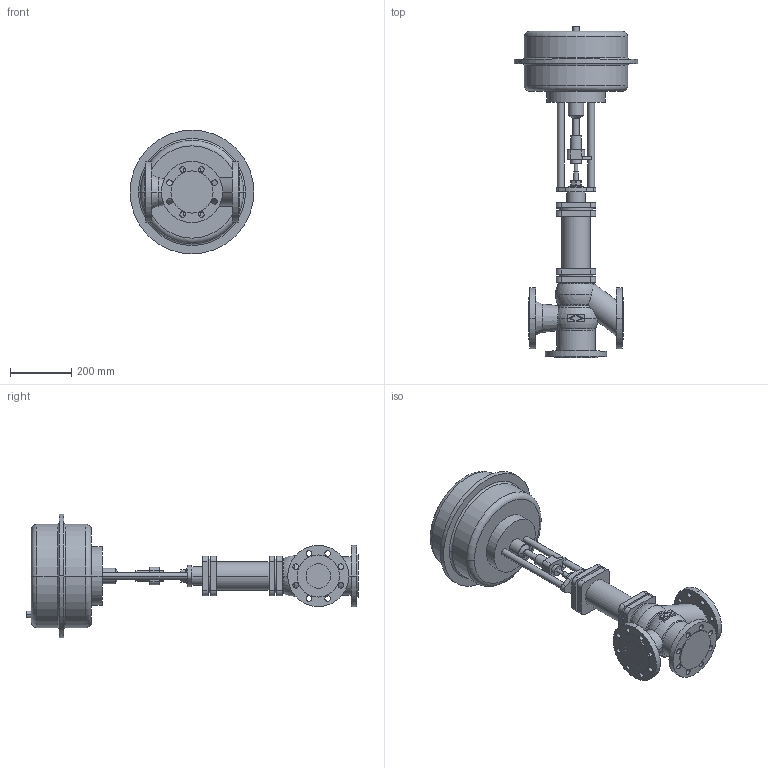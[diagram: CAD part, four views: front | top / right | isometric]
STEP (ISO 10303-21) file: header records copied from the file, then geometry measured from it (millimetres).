
FILE_DESCRIPTION(('OneSpaceDesigner STEP Export'),'2;1');
FILE_NAME('c000000715.stp','2006-09-21T 8:33:53',(''),(''),'OneSpace Designer STEP processor for AP214 (Solid Model)','OneSpace Designer 13.20A 18-Aug-2005 (C) CoCreate Software GmbH','');
FILE_SCHEMA(('AUTOMOTIVE_DESIGN { 1 0 10303 214 1 1 1 1 }'));
Length unit declared in the file: millimetre
Products named in the file (2): 1; 2
Bounding box: 405 x 1086.7 x 405 mm (x, y, z)
Volume: 28229102 mm3; surface area: 1069577.3 mm2
Topology: 2 solids, 2 shells, 264 faces, 662 edges, 432 vertices
Faces by surface type: cylinder 138, plane 96, torus 20, cone 6, sphere 4
Entity records: 7322 total; most frequent: CARTESIAN_POINT 1418, ORIENTED_EDGE 1316, DIRECTION 1088, EDGE_CURVE 658, VERTEX_POINT 432, AXIS2_PLACEMENT_3D 395, EDGE_LOOP 346, VECTOR 298
